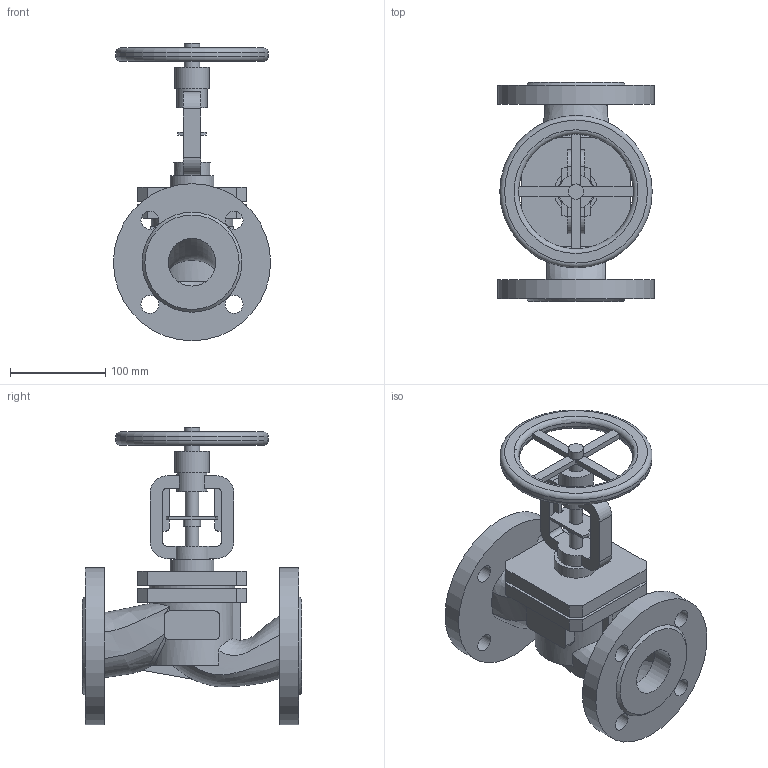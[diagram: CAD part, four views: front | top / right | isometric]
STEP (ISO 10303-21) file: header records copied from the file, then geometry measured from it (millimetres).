
FILE_DESCRIPTION(('STEP AP203'), '1');
FILE_NAME('Êëàïàí çàïîðíî-ðåãóëèðóþùèé BV2F DN50', '2026-09-22T07:50:31', ('Ýíåðãèÿ'), (''), 'ASCON STEP Converter 1.6', 'ASCON Math Kernel', '');
FILE_SCHEMA(('CONFIG_CONTROL_DESIGN'));
Length unit declared in the file: millimetre
Bounding box: 165 x 230 x 312.5 mm (x, y, z)
Volume: 2000685.8 mm3; surface area: 292846.2 mm2
Topology: 1 solids, 1 shells, 202 faces, 550 edges, 366 vertices
Faces by surface type: plane 116, cylinder 61, bspline 19, torus 4, cone 2
Full cylindrical faces by diameter (mm): 14 x2, 16 x1, 18 x1, 19 x8, 32 x1, 36 x1, 38 x1, 46 x1, 50 x1, 90 x1, 160 x1, 165 x2
Entity records: 20329 total; most frequent: CARTESIAN_POINT 13741, ORIENTED_EDGE 1042, DIRECTION 932, EDGE_CURVE 521, VERTEX_POINT 366, AXIS2_PLACEMENT_3D 340, EDGE_LOOP 275, LINE 252
